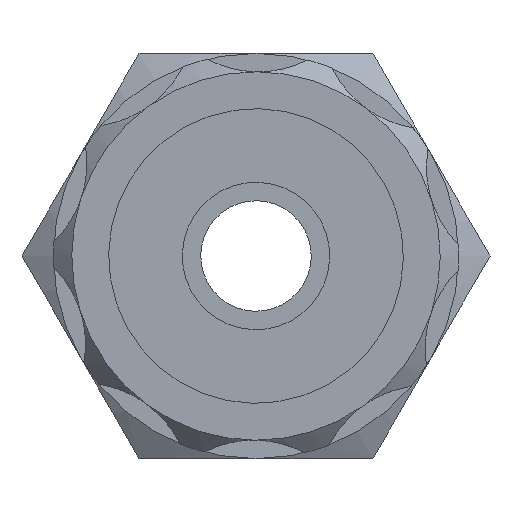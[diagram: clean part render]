
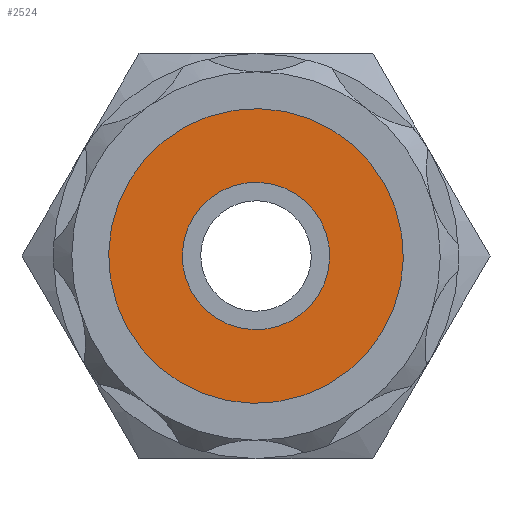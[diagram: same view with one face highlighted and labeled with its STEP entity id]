
A CAD part, left-side view. The second image highlights one B-rep face of the part: STEP entity #2524.
In plain terms, the highlighted planar face has unit normal (-1, 0, 0) as drawn and (0, 1, 0) by its records, which use the part's own axes.
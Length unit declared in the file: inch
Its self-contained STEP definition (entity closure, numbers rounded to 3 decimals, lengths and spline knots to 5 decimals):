
#2493=CARTESIAN_POINT('',(-0.15748,0.07874,0.0));
#2494=VERTEX_POINT('',#2493);
#2495=CARTESIAN_POINT('',(0.0,0.07874,0.0));
#2496=DIRECTION('',(0.0,-1.0,0.0));
#2497=DIRECTION('',(1.0,0.0,0.0));
#2498=AXIS2_PLACEMENT_3D('',#2495,#2496,#2497);
#2499=CIRCLE('',#2498,0.15748);
#2500=EDGE_CURVE('',#2494,#2494,#2499,.T.);
#2505=CARTESIAN_POINT('',(0.0,0.07874,0.0));
#2506=DIRECTION('',(0.0,-1.0,0.0));
#2507=DIRECTION('',(0.0,0.0,-1.0));
#2508=AXIS2_PLACEMENT_3D('',#2505,#2506,#2507);
#2509=PLANE('',#2508);
#2510=ORIENTED_EDGE('',*,*,#2500,.F.);
#2511=EDGE_LOOP('',(#2510));
#2512=FACE_OUTER_BOUND('',#2511,.T.);
#2513=CARTESIAN_POINT('',(-0.07874,0.07874,0.0));
#2514=VERTEX_POINT('',#2513);
#2515=CARTESIAN_POINT('',(0.0,0.07874,0.0));
#2516=DIRECTION('',(0.0,-1.0,0.0));
#2517=DIRECTION('',(1.0,0.0,0.0));
#2518=AXIS2_PLACEMENT_3D('',#2515,#2516,#2517);
#2519=CIRCLE('',#2518,0.07874);
#2520=EDGE_CURVE('',#2514,#2514,#2519,.T.);
#2521=ORIENTED_EDGE('',*,*,#2520,.T.);
#2522=EDGE_LOOP('',(#2521));
#2523=FACE_BOUND('',#2522,.T.);
#2524=ADVANCED_FACE('',(#2512,#2523),#2509,.F.);
